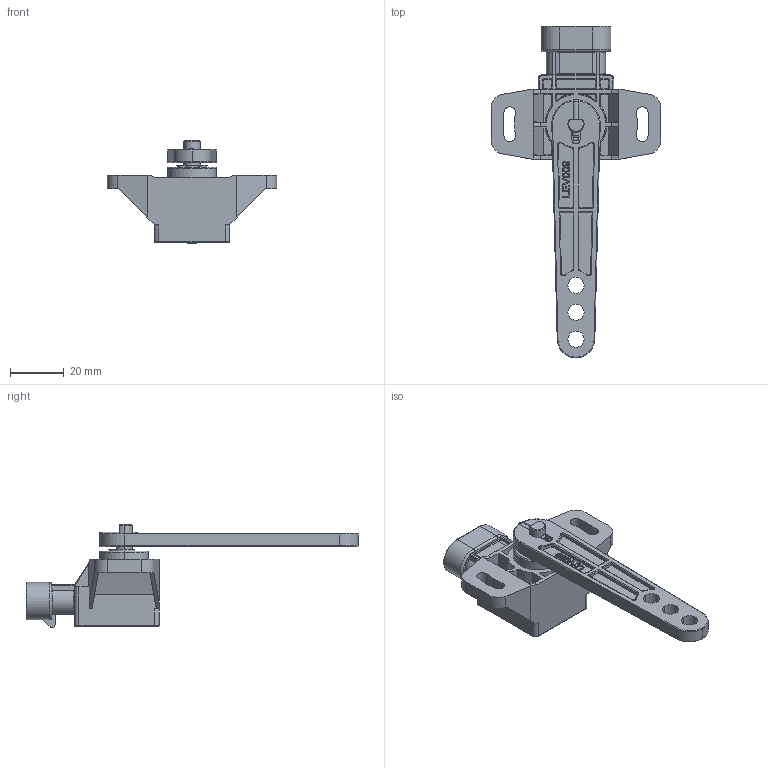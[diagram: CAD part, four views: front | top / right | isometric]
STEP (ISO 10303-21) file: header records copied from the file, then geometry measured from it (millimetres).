
FILE_DESCRIPTION (( 'STEP AP203' ), '1' );
FILE_NAME ('GR3PA S5E1MS xxx xxxx D0.STEP', '2024-12-19T15:22:28', ( '' ), ( '' ), 'SwSTEP 2.0', 'SolidWorks 2024', '' );
FILE_SCHEMA (( 'CONFIG_CONTROL_DESIGN' ));
Length unit declared in the file: millimetre
Products named in the file (1): GR3PA S5E1MS xxx xxxx D0
Bounding box: 63 x 123.5 x 38.47 mm (x, y, z)
Volume: 30410.5 mm3; surface area: 17868.4 mm2
Topology: 9 solids, 9 shells, 784 faces, 1933 edges, 1171 vertices
Faces by surface type: plane 292, cylinder 268, bspline 81, torus 70, sphere 40, cone 33
Entity records: 27685 total; most frequent: CARTESIAN_POINT 9631, ORIENTED_EDGE 3794, DIRECTION 3678, EDGE_CURVE 1897, AXIS2_PLACEMENT_3D 1345, VERTEX_POINT 1171, VECTOR 988, LINE 988
